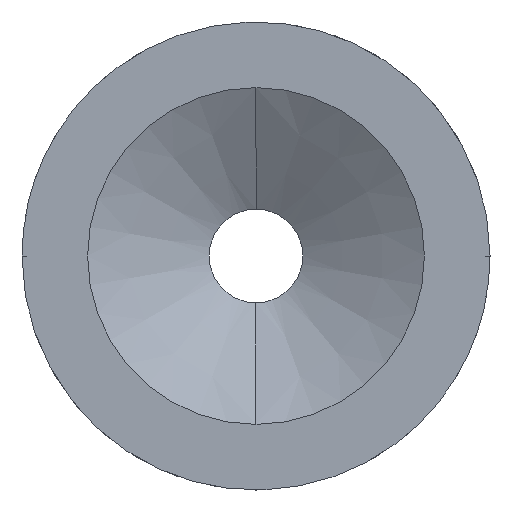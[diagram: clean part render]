
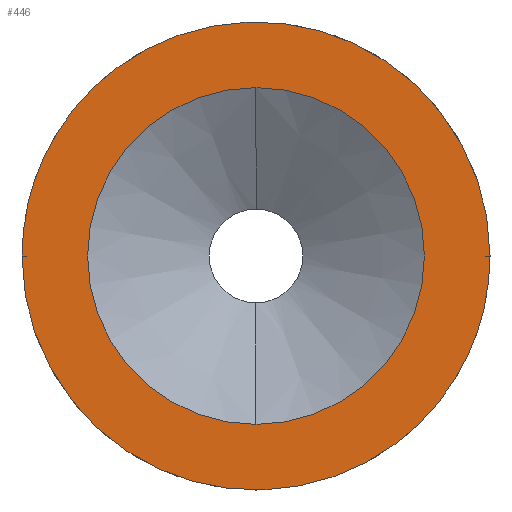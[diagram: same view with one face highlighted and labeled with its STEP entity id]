
A CAD part, left-side view. The second image highlights one B-rep face of the part: STEP entity #446.
In plain terms, the highlighted planar face has unit normal (-1, 0, 0).
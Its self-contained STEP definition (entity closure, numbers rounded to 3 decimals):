
#20 = PLANE ( 'NONE',  #630 ) ;
#43 = VERTEX_POINT ( 'NONE', #333 ) ;
#44 = CARTESIAN_POINT ( 'NONE',  ( 0., -5., 10. ) ) ;
#50 = VERTEX_POINT ( 'NONE', #145 ) ;
#76 = EDGE_CURVE ( 'NONE', #43, #370, #635, .T. ) ;
#124 = DIRECTION ( 'NONE',  ( -1., 0., 0. ) ) ;
#145 = CARTESIAN_POINT ( 'NONE',  ( 0., 0., 3.598 ) ) ;
#179 = FACE_BOUND ( 'NONE', #555, .T. ) ;
#189 = EDGE_CURVE ( 'NONE', #528, #50, #317, .T. ) ;
#205 = CARTESIAN_POINT ( 'NONE',  ( 0., 5., 0. ) ) ;
#268 = DIRECTION ( 'NONE',  ( 0., 0., 1. ) ) ;
#275 = AXIS2_PLACEMENT_3D ( 'NONE', #380, #124, #268 ) ;
#298 = CARTESIAN_POINT ( 'NONE',  ( 0., 5., 0. ) ) ;
#317 = CIRCLE ( 'NONE', #275, 3.598 ) ;
#333 = CARTESIAN_POINT ( 'NONE',  ( 0., -5., 0. ) ) ;
#334 = CARTESIAN_POINT ( 'NONE',  ( 0., 5., 10. ) ) ;
#353 = CARTESIAN_POINT ( 'NONE',  ( 0., -5., 0. ) ) ;
#356 = CARTESIAN_POINT ( 'NONE',  ( 0., -5., -10. ) ) ;
#359 = EDGE_LOOP ( 'NONE', ( #659, #649 ) ) ;
#362 = DIRECTION ( 'NONE',  ( 0., 0., -1. ) ) ;
#370 = VERTEX_POINT ( 'NONE', #298 ) ;
#380 = CARTESIAN_POINT ( 'NONE',  ( 0., 0., 0. ) ) ;
#401 = ORIENTED_EDGE ( 'NONE', *, *, #533, .F. ) ;
#412 = CARTESIAN_POINT ( 'NONE',  ( 0., 5., -10. ) ) ;
#416 = CIRCLE ( 'NONE', #656, 3.598 ) ;
#431 = CARTESIAN_POINT ( 'NONE',  ( 0., 5., 0. ) ) ;
#446 = ADVANCED_FACE ( 'NONE', ( #179, #645 ), #20, .F. ) ;
#459 =( BOUNDED_CURVE ( )  B_SPLINE_CURVE ( 3, ( #431, #412, #356, #353 ),
 .UNSPECIFIED., .F., .T. ) 
 B_SPLINE_CURVE_WITH_KNOTS ( ( 4, 4 ),
 ( 0., 0.016 ),
 .UNSPECIFIED. ) 
 CURVE ( )  GEOMETRIC_REPRESENTATION_ITEM ( )  RATIONAL_B_SPLINE_CURVE ( ( 1., 0.333, 0.333, 1. ) ) 
 REPRESENTATION_ITEM ( '' )  );
#525 = DIRECTION ( 'NONE',  ( 0., 0., 1. ) ) ;
#528 = VERTEX_POINT ( 'NONE', #629 ) ;
#529 = CARTESIAN_POINT ( 'NONE',  ( 0., -5.06, 5.06 ) ) ;
#532 = DIRECTION ( 'NONE',  ( -1., 0., 0. ) ) ;
#533 = EDGE_CURVE ( 'NONE', #50, #528, #416, .T. ) ;
#555 = EDGE_LOOP ( 'NONE', ( #401, #609 ) ) ;
#558 = CARTESIAN_POINT ( 'NONE',  ( 0., 0., 0. ) ) ;
#579 = EDGE_CURVE ( 'NONE', #370, #43, #459, .T. ) ;
#609 = ORIENTED_EDGE ( 'NONE', *, *, #189, .F. ) ;
#629 = CARTESIAN_POINT ( 'NONE',  ( 0., 0., -3.598 ) ) ;
#630 = AXIS2_PLACEMENT_3D ( 'NONE', #529, #712, #362 ) ;
#635 =( BOUNDED_CURVE ( )  B_SPLINE_CURVE ( 3, ( #673, #44, #334, #205 ),
 .UNSPECIFIED., .F., .F. ) 
 B_SPLINE_CURVE_WITH_KNOTS ( ( 4, 4 ),
 ( 0., 0.016 ),
 .UNSPECIFIED. ) 
 CURVE ( )  GEOMETRIC_REPRESENTATION_ITEM ( )  RATIONAL_B_SPLINE_CURVE ( ( 1., 0.333, 0.333, 1. ) ) 
 REPRESENTATION_ITEM ( '' )  );
#645 = FACE_OUTER_BOUND ( 'NONE', #359, .T. ) ;
#649 = ORIENTED_EDGE ( 'NONE', *, *, #579, .T. ) ;
#656 = AXIS2_PLACEMENT_3D ( 'NONE', #558, #532, #525 ) ;
#659 = ORIENTED_EDGE ( 'NONE', *, *, #76, .T. ) ;
#673 = CARTESIAN_POINT ( 'NONE',  ( 0., -5., 0. ) ) ;
#712 = DIRECTION ( 'NONE',  ( 1., 0., 0. ) ) ;
